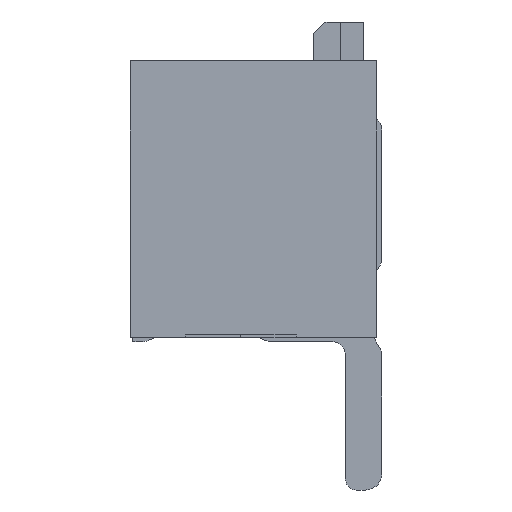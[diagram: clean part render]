
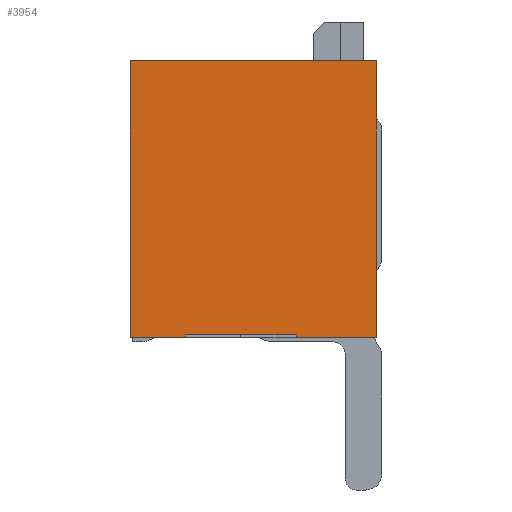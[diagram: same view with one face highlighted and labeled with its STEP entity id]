
A CAD part, left-side view. The second image highlights one B-rep face of the part: STEP entity #3954.
In plain terms, the highlighted planar face has unit normal (-1, 0, 0).
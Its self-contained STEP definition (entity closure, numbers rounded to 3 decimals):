
#104 = CARTESIAN_POINT ( 'NONE',  ( -10.3, -2.455, 5.15 ) ) ;
#125 = CARTESIAN_POINT ( 'NONE',  ( -10.3, -4.45, 7.398 ) ) ;
#163 = CARTESIAN_POINT ( 'NONE',  ( -10.3, 0., 8.098 ) ) ;
#605 = CARTESIAN_POINT ( 'NONE',  ( -10.3, 0., 2.398 ) ) ;
#702 = LINE ( 'NONE', #17510, #4431 ) ;
#1508 = ORIENTED_EDGE ( 'NONE', *, *, #4991, .F. ) ;
#1672 = LINE ( 'NONE', #163, #5462 ) ;
#2641 = LINE ( 'NONE', #13517, #16209 ) ;
#2791 = ORIENTED_EDGE ( 'NONE', *, *, #8251, .T. ) ;
#3132 = ORIENTED_EDGE ( 'NONE', *, *, #4042, .F. ) ;
#3614 = CARTESIAN_POINT ( 'NONE',  ( -10.3, -4.45, 2.398 ) ) ;
#3659 = LINE ( 'NONE', #15924, #15982 ) ;
#3954 = ADVANCED_FACE ( 'NONE', ( #15584 ), #7739, .F. ) ;
#4042 = EDGE_CURVE ( 'NONE', #10260, #17212, #8430, .T. ) ;
#4368 = VERTEX_POINT ( 'NONE', #15563 ) ;
#4431 = VECTOR ( 'NONE', #14495, 1000. ) ;
#4632 = DIRECTION ( 'NONE',  ( 0., 1., 0. ) ) ;
#4991 = EDGE_CURVE ( 'NONE', #13123, #10260, #2641, .T. ) ;
#5462 = VECTOR ( 'NONE', #15456, 1000. ) ;
#5776 = EDGE_LOOP ( 'NONE', ( #3132, #1508, #12812, #15574, #16143, #19878, #2791, #10014 ) ) ;
#5836 = CARTESIAN_POINT ( 'NONE',  ( -10.3, -1., 2.448 ) ) ;
#6075 = VERTEX_POINT ( 'NONE', #125 ) ;
#6238 = AXIS2_PLACEMENT_3D ( 'NONE', #104, #17104, #4632 ) ;
#7674 = DIRECTION ( 'NONE',  ( 0., 1., 0. ) ) ;
#7739 = PLANE ( 'NONE',  #6238 ) ;
#7954 = CARTESIAN_POINT ( 'NONE',  ( -10.3, -3., 2.448 ) ) ;
#8084 = VERTEX_POINT ( 'NONE', #8988 ) ;
#8251 = EDGE_CURVE ( 'NONE', #6075, #4368, #10702, .T. ) ;
#8430 = LINE ( 'NONE', #3614, #15225 ) ;
#8744 = CARTESIAN_POINT ( 'NONE',  ( -10.3, -3., 2.448 ) ) ;
#8988 = CARTESIAN_POINT ( 'NONE',  ( -10.3, -3., 2.398 ) ) ;
#10012 = EDGE_CURVE ( 'NONE', #13130, #8084, #3659, .T. ) ;
#10014 = ORIENTED_EDGE ( 'NONE', *, *, #13879, .F. ) ;
#10223 = VECTOR ( 'NONE', #11283, 1000. ) ;
#10260 = VERTEX_POINT ( 'NONE', #12196 ) ;
#10699 = EDGE_CURVE ( 'NONE', #11728, #8084, #18308, .T. ) ;
#10702 = LINE ( 'NONE', #12519, #18745 ) ;
#11283 = DIRECTION ( 'NONE',  ( 0., 1., 0. ) ) ;
#11728 = VERTEX_POINT ( 'NONE', #8744 ) ;
#12196 = CARTESIAN_POINT ( 'NONE',  ( -10.3, -1., 2.398 ) ) ;
#12284 = CARTESIAN_POINT ( 'NONE',  ( -10.3, -4.45, 2.398 ) ) ;
#12519 = CARTESIAN_POINT ( 'NONE',  ( -10.3, -3.32, 7.398 ) ) ;
#12812 = ORIENTED_EDGE ( 'NONE', *, *, #17160, .F. ) ;
#12991 = LINE ( 'NONE', #7954, #10223 ) ;
#13123 = VERTEX_POINT ( 'NONE', #5836 ) ;
#13130 = VERTEX_POINT ( 'NONE', #12284 ) ;
#13166 = DIRECTION ( 'NONE',  ( 0., 1., 0. ) ) ;
#13431 = VECTOR ( 'NONE', #19508, 1000. ) ;
#13517 = CARTESIAN_POINT ( 'NONE',  ( -10.3, -1., 4.621 ) ) ;
#13879 = EDGE_CURVE ( 'NONE', #17212, #4368, #1672, .T. ) ;
#13936 = DIRECTION ( 'NONE',  ( 0., 1., 0. ) ) ;
#14495 = DIRECTION ( 'NONE',  ( 0., 0., -1. ) ) ;
#15225 = VECTOR ( 'NONE', #13166, 1000. ) ;
#15456 = DIRECTION ( 'NONE',  ( 0., 0., 1. ) ) ;
#15563 = CARTESIAN_POINT ( 'NONE',  ( -10.3, 0., 7.398 ) ) ;
#15574 = ORIENTED_EDGE ( 'NONE', *, *, #10699, .T. ) ;
#15584 = FACE_OUTER_BOUND ( 'NONE', #5776, .T. ) ;
#15924 = CARTESIAN_POINT ( 'NONE',  ( -10.3, -4.45, 2.398 ) ) ;
#15982 = VECTOR ( 'NONE', #13936, 1000. ) ;
#15993 = EDGE_CURVE ( 'NONE', #6075, #13130, #702, .T. ) ;
#16143 = ORIENTED_EDGE ( 'NONE', *, *, #10012, .F. ) ;
#16209 = VECTOR ( 'NONE', #16522, 1000. ) ;
#16522 = DIRECTION ( 'NONE',  ( 0., 0., -1. ) ) ;
#16798 = CARTESIAN_POINT ( 'NONE',  ( -10.3, -3., 4.621 ) ) ;
#17104 = DIRECTION ( 'NONE',  ( 1., 0., 0. ) ) ;
#17160 = EDGE_CURVE ( 'NONE', #11728, #13123, #12991, .T. ) ;
#17212 = VERTEX_POINT ( 'NONE', #605 ) ;
#17510 = CARTESIAN_POINT ( 'NONE',  ( -10.3, -4.45, 8.098 ) ) ;
#18308 = LINE ( 'NONE', #16798, #13431 ) ;
#18745 = VECTOR ( 'NONE', #7674, 1000. ) ;
#19508 = DIRECTION ( 'NONE',  ( 0., 0., -1. ) ) ;
#19878 = ORIENTED_EDGE ( 'NONE', *, *, #15993, .F. ) ;
